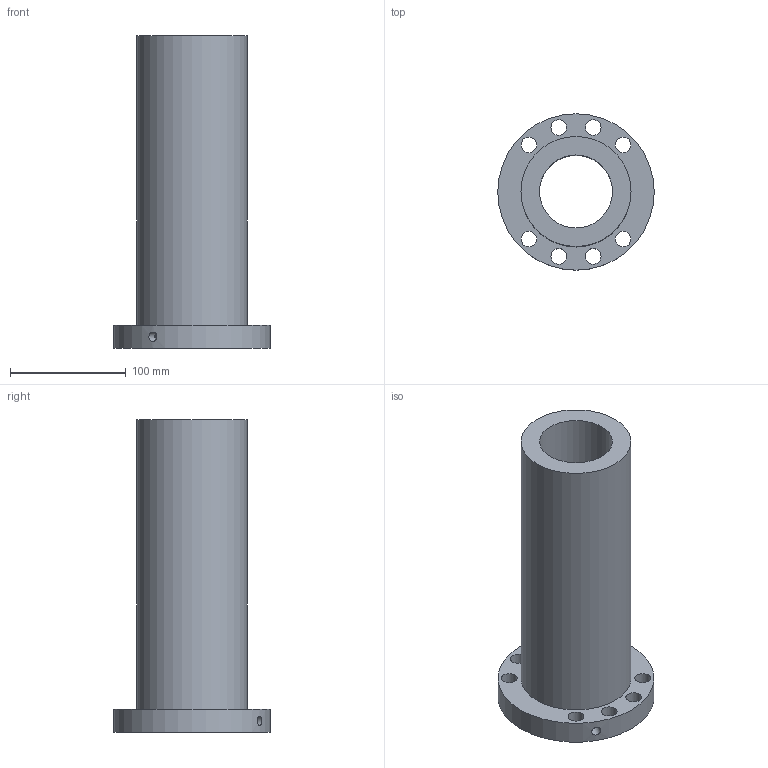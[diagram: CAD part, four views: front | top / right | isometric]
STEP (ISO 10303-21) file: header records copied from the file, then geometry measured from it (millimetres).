
FILE_DESCRIPTION(/* description */ (''),/* implementation_level */ '2;1');
FILE_NAME(/* name */ '63-20K5_635',/* time_stamp */ '2007-10-15T12:53:53+08:00',/* author */ (''),/* organization */ (''),/* preprocessor_version */ 'ST-DEVELOPER v11',/* originating_system */ 'UGS - NX 5.0',/* authorisation */ '');
FILE_SCHEMA (('CONFIG_CONTROL_DESIGN'));
Length unit declared in the file: millimetre
Products named in the file (1): 63-20K5_635
Bounding box: 135 x 135 x 270 mm (x, y, z)
Volume: 1192537.2 mm3; surface area: 164107.2 mm2
Topology: 1 solids, 1 shells, 17 faces, 40 edges, 27 vertices
Faces by surface type: cylinder 13, plane 4
Full cylindrical faces by diameter (mm): 6 x1, 8 x1, 13.5 x8, 63 x1, 95 x1, 135 x1
Entity records: 668 total; most frequent: CARTESIAN_POINT 184, DIRECTION 84, FACE_BOUND 52, EDGE_LOOP 52, ORIENTED_EDGE 52, AXIS2_PLACEMENT_3D 42, VERTEX_POINT 26, EDGE_CURVE 26
